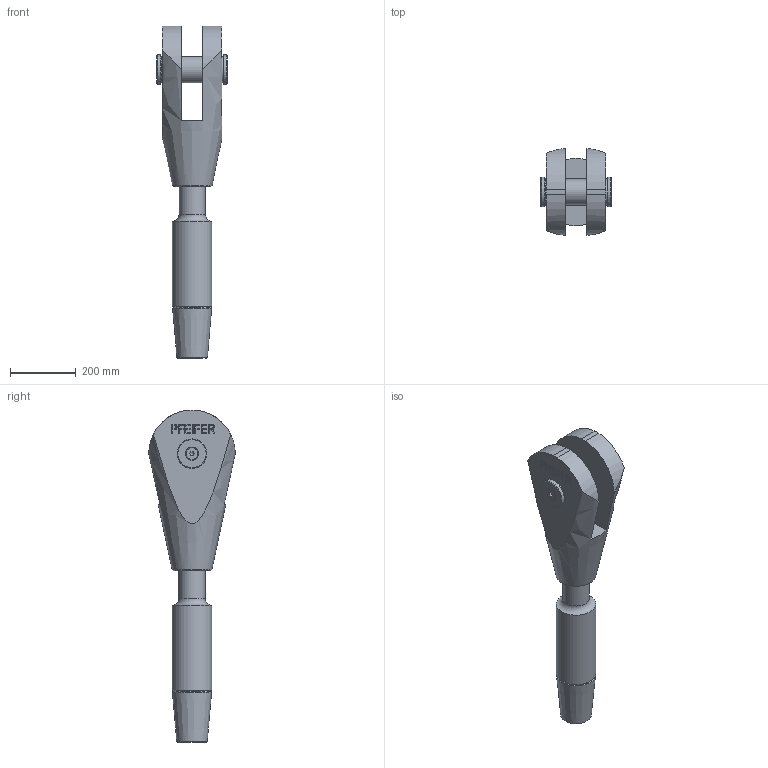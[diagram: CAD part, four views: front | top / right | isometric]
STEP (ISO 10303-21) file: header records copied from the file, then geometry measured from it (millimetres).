
FILE_DESCRIPTION(/* description */ (''),/* implementation_level */ '2;1');
FILE_NAME(/* name */ 'G:\Engineering\700 CAD\Internet-PX-1-step-igs-dxf\520-GAK-ADA-Arbeitsdateien\520-080-GAK-ADA.stp',/* time_stamp */ '2020-07-03T13:14:46+02:00',/* author */ ('schwarz'),/* organization */ (''),/* preprocessor_version */ 'ST-DEVELOPER v16.1',/* originating_system */ 'Autodesk Inventor 2016',/* authorisation */ '');
FILE_SCHEMA (('AUTOMOTIVE_DESIGN { 1 0 10303 214 3 1 1 }'));
Length unit declared in the file: centimetre
Products named in the file (1): 520-080-GAK-ADA-Kunde
Bounding box: 216 x 263.44 x 1010.47 mm (x, y, z)
Volume: 15694322.6 mm3; surface area: 742240.7 mm2
Topology: 2 solids, 4 shells, 192 faces, 493 edges, 326 vertices
Faces by surface type: plane 138, bspline 21, cylinder 18, cone 14, torus 1
Full cylindrical faces by diameter (mm): 17.294 x1, 20 x1, 22 x1, 36.05 x1, 80 x2, 83 x3, 90 x2, 120 x1
Entity records: 5903 total; most frequent: CARTESIAN_POINT 1290, ORIENTED_EDGE 912, DIRECTION 792, EDGE_CURVE 456, LINE 348, VECTOR 348, VERTEX_POINT 316, EDGE_LOOP 242
